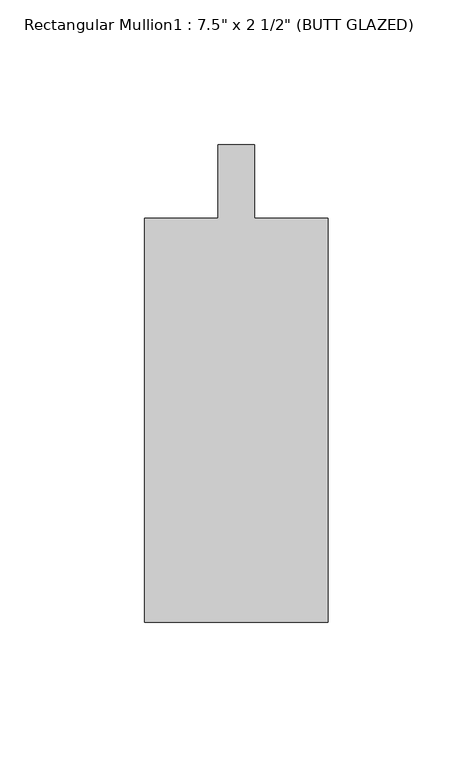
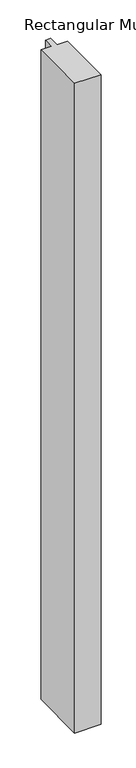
"""IFC4 building model written with IfcOpenShell, lengths in millimetres: member geometry."""

from ifc_helpers import new_model, si_unit, frame, origin, place, context, project, spatial, polyline, outline, extrude, source, transform, mapped, element, save


def member_0eb2d6df(model_context):
    return source(origin(), model_context, "Body", "SweptSolid", [
        extrude(outline(polyline([(31.75, -165.1), (-31.75, -165.1), (-31.75, -25.4), (-6.35, -25.4), (-6.35, 0.0), (6.35, 0.0), (6.35, -25.4), (31.75, -25.4), (31.75, -165.1)])), frame((0.0, 0.0, -1638.3), z_axis=(0.0, 0.0, 1.0), x_axis=(1.0, 0.0, 0.0)), (0.0, 0.0, 1.0), 1638.3),
    ])


if __name__ == "__main__":
    model = new_model("IFC4")
    model_context = context("Model", 3, world=origin())
    ifc_project = project(units=[si_unit("LENGTHUNIT", "METRE", prefix="MILLI")], contexts=[model_context])
    site = spatial("IfcSite", under=ifc_project)
    building = spatial("IfcBuilding", under=site)
    placement = place(None, origin())
    member_shape = member_0eb2d6df(model_context)
    element("IfcMember", 1, ObjectType="Rectangular Mullion1 : 7.5\" x 2 1/2\" (BUTT GLAZED)", at=placement, inside=building, context=model_context, shape_type="MappedRepresentation", body=[
        mapped(member_shape, transform((0.0, 0.0, 0.0), x_axis=(1.0, 0.0, 0.0), y_axis=(0.0, 1.0, 0.0), z_axis=(0.0, 0.0, 1.0))),
    ])
    save(model, "model.ifc")
